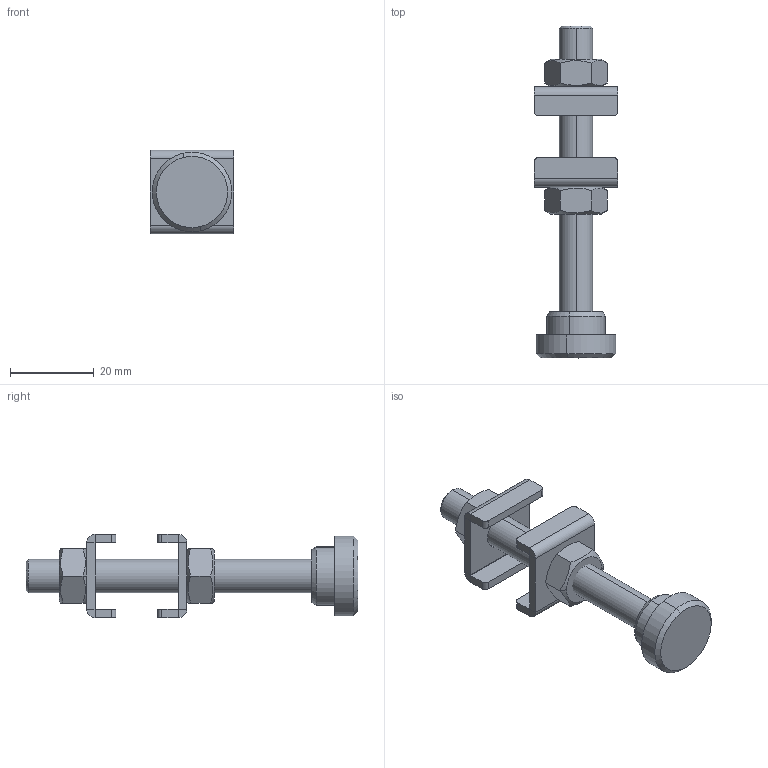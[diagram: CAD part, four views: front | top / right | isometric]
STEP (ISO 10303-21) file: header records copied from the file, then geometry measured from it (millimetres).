
FILE_DESCRIPTION (( 'STEP AP203' ), '1' );
FILE_NAME ('ARP-M8.STEP', '2011-05-20T17:07:41', ( 'Usuario' ), ( '' ), 'SwSTEP 2.0', 'SolidWorks 2011', '' );
FILE_SCHEMA (( 'CONFIG_CONTROL_DESIGN' ));
Length unit declared in the file: millimetre
Products named in the file (5): 20.20001; 11.50002; 20.20003; ARP-M8; 14.10001
Assembly tree (6 placements, depth 2):
  ARP-M8
    11.50002  x2
    20.20003
    14.10001  x2
    20.20001
Bounding box: 20 x 79.4 x 20 mm (x, y, z)
Volume: 8974.3 mm3; surface area: 7230.6 mm2
Topology: 6 solids, 6 shells, 120 faces, 266 edges, 159 vertices
Faces by surface type: plane 58, cylinder 34, cone 28
Entity records: 2675 total; most frequent: CARTESIAN_POINT 460, DIRECTION 378, ORIENTED_EDGE 316, EDGE_CURVE 158, AXIS2_PLACEMENT_3D 149, VERTEX_POINT 95, EDGE_LOOP 81, VECTOR 80
